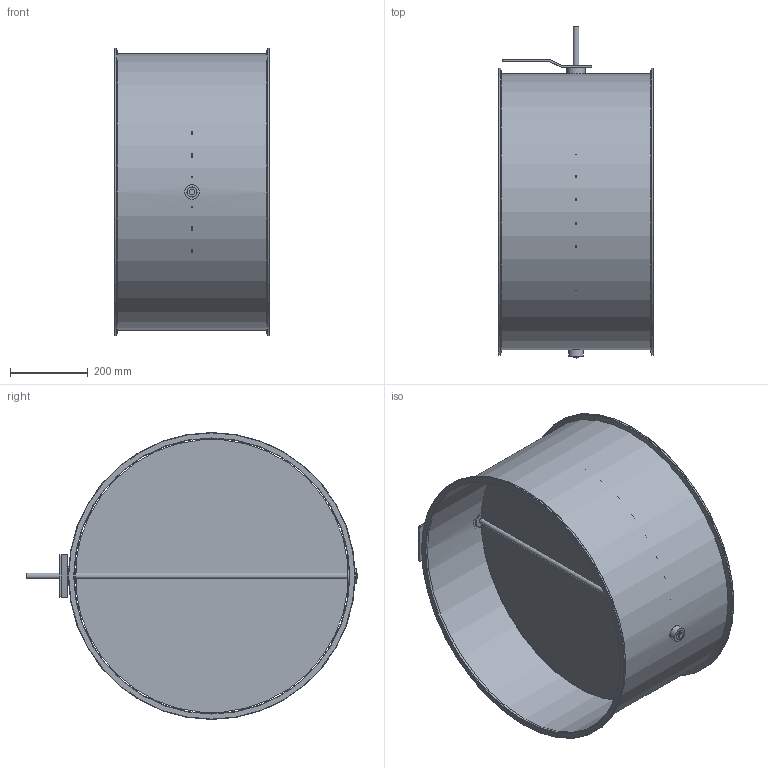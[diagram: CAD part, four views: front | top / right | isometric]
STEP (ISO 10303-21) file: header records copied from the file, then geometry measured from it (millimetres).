
FILE_DESCRIPTION(/* description */ (''),/* implementation_level */ '2;1');
FILE_NAME(/* name */ 'EA114-80B__710_L400_Belimo_Typen_NF_SF.stp',/* time_stamp */ '2017-12-07T10:35:17+01:00',/* author */ (''),/* organization */ (''),/* preprocessor_version */ 'ST-DEVELOPER v11',/* originating_system */ 'SIEMENS UGS NX 6.0',/* authorisation */ '');
FILE_SCHEMA (('CONFIG_CONTROL_DESIGN'));
Length unit declared in the file: millimetre
Products named in the file (1): gars5544kx6j
Bounding box: 400 x 856 x 740 mm (x, y, z)
Volume: 2129982.5 mm3; surface area: 2801688.1 mm2
Topology: 8 solids, 8 shells, 79 faces, 167 edges, 106 vertices
Faces by surface type: plane 36, cylinder 35, torus 6, cone 2
Full cylindrical faces by diameter (mm): 6.1 x7, 15 x3, 25 x3, 25.85 x2, 26 x2, 38 x3, 49 x1, 710 x1, 712 x1, 740 x2
Entity records: 2062 total; most frequent: CARTESIAN_POINT 368, DIRECTION 352, ORIENTED_EDGE 248, AXIS2_PLACEMENT_3D 152, EDGE_LOOP 144, EDGE_CURVE 124, FACE_BOUND 114, VERTEX_POINT 96
